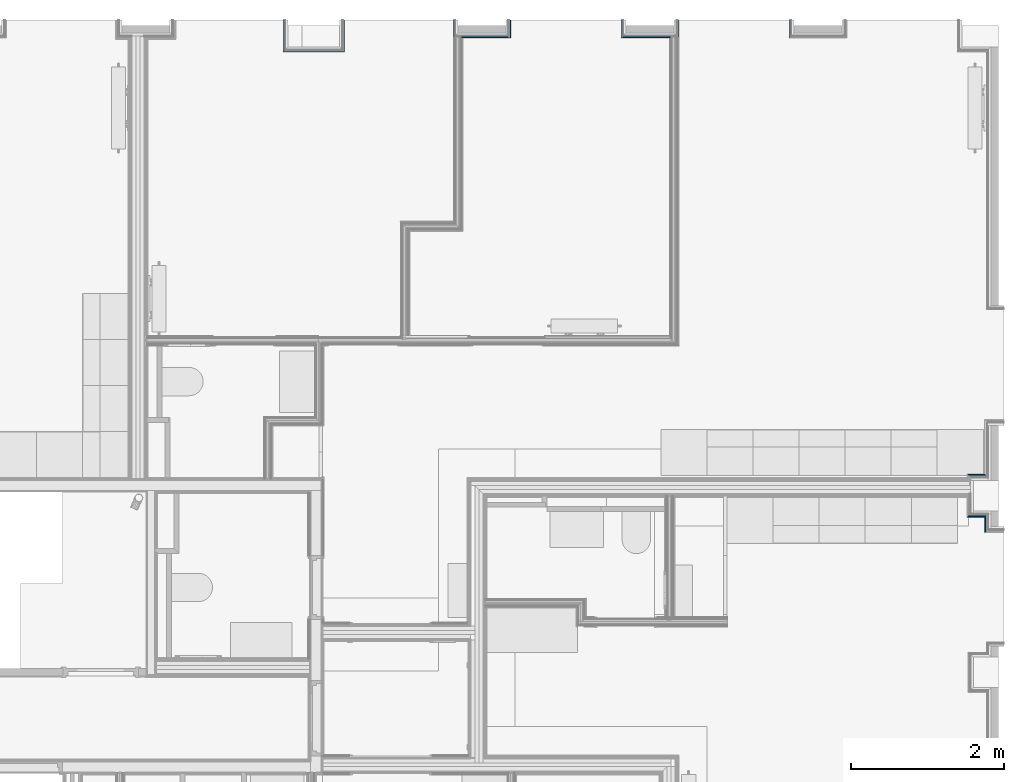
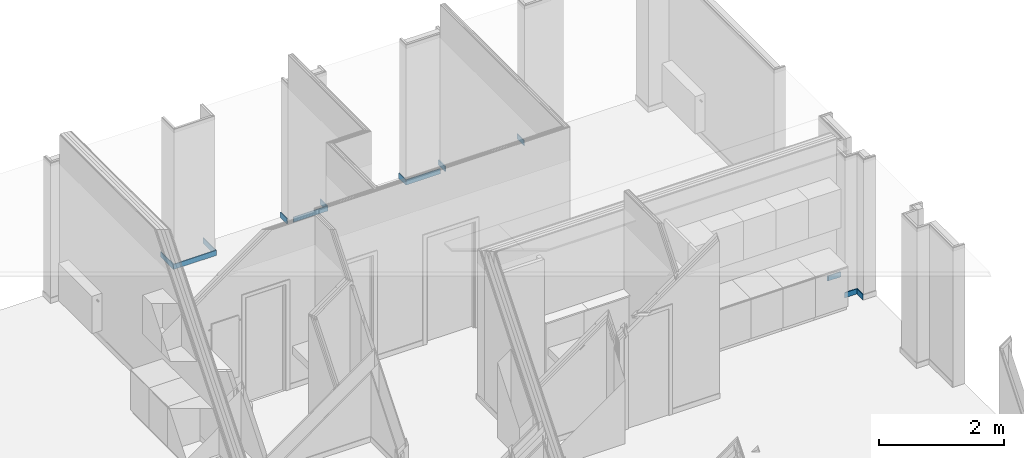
# One storey, part 39 of 64: 13 building element parts, 13 elements without a shape of their own.
"""IFC2X3 building model written with IfcOpenShell, lengths in metres."""

from ifc_helpers import new_model, entity, si_unit, converted_unit, derived_unit, money_unit, direction, frame, frame_2d, origin_with_axes, place, context, subcontext, project, spatial, polyline, rectangle, outline, extrude, material, type_object, element, aggregate, save


model = new_model("IFC2X3")

# Units and contexts
model_context = context("Model", 3, precision=1e-05, world=origin_with_axes(), true_north=direction((0.0, 1.0)))
body_context = subcontext(model_context, "Body", "Model", "MODEL_VIEW", scale=1.0)
ifc_project = project(units=[si_unit("LENGTHUNIT", "METRE"), si_unit("AREAUNIT", "SQUARE_METRE"), si_unit("VOLUMEUNIT", "CUBIC_METRE"), si_unit("ABSORBEDDOSEUNIT", "GRAY"), si_unit("AMOUNTOFSUBSTANCEUNIT", "MOLE"), si_unit("DOSEEQUIVALENTUNIT", "SIEVERT"), si_unit("ELECTRICCAPACITANCEUNIT", "FARAD"), si_unit("ELECTRICCHARGEUNIT", "COULOMB"), si_unit("ELECTRICCONDUCTANCEUNIT", "SIEMENS"), si_unit("ELECTRICCURRENTUNIT", "AMPERE"), si_unit("ELECTRICRESISTANCEUNIT", "OHM"), si_unit("ELECTRICVOLTAGEUNIT", "VOLT"), si_unit("ENERGYUNIT", "JOULE"), si_unit("FORCEUNIT", "NEWTON"), si_unit("FREQUENCYUNIT", "HERTZ"), si_unit("ILLUMINANCEUNIT", "LUX"), si_unit("INDUCTANCEUNIT", "HENRY"), si_unit("LUMINOUSFLUXUNIT", "LUMEN"), si_unit("LUMINOUSINTENSITYUNIT", "CANDELA"), si_unit("MAGNETICFLUXDENSITYUNIT", "TESLA"), si_unit("MAGNETICFLUXUNIT", "WEBER"), si_unit("MASSUNIT", "GRAM"), converted_unit("PLANEANGLEUNIT", "degree", entity("IfcReal", 0.0174532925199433), si_unit("PLANEANGLEUNIT", "RADIAN"), dimensions=[0, 0, 0, 0, 0, 0, 0]), si_unit("POWERUNIT", "WATT"), si_unit("PRESSUREUNIT", "PASCAL"), si_unit("RADIOACTIVITYUNIT", "BECQUEREL"), si_unit("SOLIDANGLEUNIT", "STERADIAN"), si_unit("THERMODYNAMICTEMPERATUREUNIT", "KELVIN"), si_unit("TIMEUNIT", "SECOND"), derived_unit("ACCELERATIONUNIT", [(si_unit("LENGTHUNIT", "METRE"), 1), (si_unit("TIMEUNIT", "SECOND"), -2)]), derived_unit("ANGULARVELOCITYUNIT", [(converted_unit("PLANEANGLEUNIT", "degree", entity("IfcReal", 0.0174532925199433), si_unit("PLANEANGLEUNIT", "RADIAN"), dimensions=[0, 0, 0, 0, 0, 0, 0]), 1), (si_unit("TIMEUNIT", "SECOND"), -1)]), derived_unit("CURVATUREUNIT", [(converted_unit("PLANEANGLEUNIT", "degree", entity("IfcReal", 0.0174532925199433), si_unit("PLANEANGLEUNIT", "RADIAN"), dimensions=[0, 0, 0, 0, 0, 0, 0]), 1), (si_unit("LENGTHUNIT", "METRE"), -1)]), derived_unit("DYNAMICVISCOSITYUNIT", [(si_unit("PRESSUREUNIT", "PASCAL"), 1), (si_unit("TIMEUNIT", "SECOND"), 1)]), derived_unit("HEATFLUXDENSITYUNIT", [(si_unit("POWERUNIT", "WATT"), 1), (si_unit("LENGTHUNIT", "METRE"), -2)]), derived_unit("HEATINGVALUEUNIT", [(si_unit("ENERGYUNIT", "JOULE"), 1), (si_unit("MASSUNIT", "GRAM"), -1)]), derived_unit("INTEGERCOUNTRATEUNIT", [(si_unit("TIMEUNIT", "SECOND"), -1)]), derived_unit("IONCONCENTRATIONUNIT", [(si_unit("MASSUNIT", "GRAM"), 1), (si_unit("VOLUMEUNIT", "CUBIC_METRE"), -1)]), derived_unit("ISOTHERMALMOISTURECAPACITYUNIT", [(si_unit("VOLUMEUNIT", "CUBIC_METRE"), 1), (si_unit("MASSUNIT", "GRAM"), -1)]), derived_unit("KINEMATICVISCOSITYUNIT", [(si_unit("AREAUNIT", "SQUARE_METRE"), 1), (si_unit("TIMEUNIT", "SECOND"), -1)]), derived_unit("LINEARFORCEUNIT", [(si_unit("FORCEUNIT", "NEWTON"), 1), (si_unit("LENGTHUNIT", "METRE"), -1)]), derived_unit("LINEARMOMENTUNIT", [(si_unit("FORCEUNIT", "NEWTON"), 1), (si_unit("LENGTHUNIT", "METRE"), -1)]), derived_unit("LINEARSTIFFNESSUNIT", [(si_unit("FORCEUNIT", "NEWTON"), 1), (si_unit("LENGTHUNIT", "METRE"), -1)]), derived_unit("LINEARVELOCITYUNIT", [(si_unit("LENGTHUNIT", "METRE"), 1), (si_unit("TIMEUNIT", "SECOND"), -1)]), derived_unit("LUMINOUSINTENSITYDISTRIBUTIONUNIT", [(si_unit("LUMINOUSINTENSITYUNIT", "CANDELA"), 1), (si_unit("LUMINOUSFLUXUNIT", "LUMEN"), -1)]), derived_unit("MASSDENSITYUNIT", [(si_unit("MASSUNIT", "GRAM"), 1), (si_unit("VOLUMEUNIT", "CUBIC_METRE"), -1)]), derived_unit("MASSFLOWRATEUNIT", [(si_unit("MASSUNIT", "GRAM"), 1), (si_unit("TIMEUNIT", "SECOND"), -1)]), derived_unit("MASSPERLENGTHUNIT", [(si_unit("MASSUNIT", "GRAM"), 1), (si_unit("LENGTHUNIT", "METRE"), -1)]), derived_unit("MODULUSOFELASTICITYUNIT", [(si_unit("FORCEUNIT", "NEWTON"), 1), (si_unit("AREAUNIT", "SQUARE_METRE"), -1)]), derived_unit("MODULUSOFLINEARSUBGRADEREACTIONUNIT", [(si_unit("FORCEUNIT", "NEWTON"), 1), (si_unit("LENGTHUNIT", "METRE"), -2)]), derived_unit("MODULUSOFROTATIONALSUBGRADEREACTIONUNIT", [(si_unit("FORCEUNIT", "NEWTON"), 1), (si_unit("LENGTHUNIT", "METRE"), 1)]), derived_unit("MODULUSOFSUBGRADEREACTIONUNIT", [(si_unit("FORCEUNIT", "NEWTON"), 1), (si_unit("VOLUMEUNIT", "CUBIC_METRE"), -1)]), derived_unit("MOISTUREDIFFUSIVITYUNIT", [(si_unit("VOLUMEUNIT", "CUBIC_METRE"), 1), (si_unit("TIMEUNIT", "SECOND"), -1)]), derived_unit("MOLECULARWEIGHTUNIT", [(si_unit("MASSUNIT", "GRAM"), 1), (si_unit("AMOUNTOFSUBSTANCEUNIT", "MOLE"), -1)]), derived_unit("PLANARFORCEUNIT", [(si_unit("FORCEUNIT", "NEWTON"), 1), (si_unit("LENGTHUNIT", "METRE"), -2)]), derived_unit("ROTATIONALFREQUENCYUNIT", [(si_unit("TIMEUNIT", "SECOND"), -1)]), derived_unit("ROTATIONALMASSUNIT", [(si_unit("MASSUNIT", "GRAM"), 1), (si_unit("LENGTHUNIT", "METRE"), 2)]), derived_unit("ROTATIONALSTIFFNESSUNIT", [(si_unit("FORCEUNIT", "NEWTON"), 1), (si_unit("LENGTHUNIT", "METRE"), 1), (converted_unit("PLANEANGLEUNIT", "degree", entity("IfcReal", 0.0174532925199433), si_unit("PLANEANGLEUNIT", "RADIAN"), dimensions=[0, 0, 0, 0, 0, 0, 0]), -1)]), derived_unit("SECTIONAREAINTEGRALUNIT", [(si_unit("LENGTHUNIT", "METRE"), 5)]), derived_unit("SECTIONMODULUSUNIT", [(si_unit("LENGTHUNIT", "METRE"), 3)]), derived_unit("SHEARMODULUSUNIT", [(si_unit("FORCEUNIT", "NEWTON"), 1), (si_unit("AREAUNIT", "SQUARE_METRE"), -1)]), derived_unit("SOUNDPOWERUNIT", [(si_unit("ENERGYUNIT", "JOULE"), 1), (si_unit("TIMEUNIT", "SECOND"), -1)]), derived_unit("SPECIFICHEATCAPACITYUNIT", [(si_unit("FORCEUNIT", "NEWTON"), 1), (si_unit("MASSUNIT", "GRAM"), -1), (si_unit("THERMODYNAMICTEMPERATUREUNIT", "KELVIN"), -1)]), derived_unit("TEMPERATUREGRADIENTUNIT", [(si_unit("THERMODYNAMICTEMPERATUREUNIT", "KELVIN"), 1), (si_unit("LENGTHUNIT", "METRE"), -1)]), derived_unit("THERMALADMITTANCEUNIT", [(si_unit("POWERUNIT", "WATT"), 1), (si_unit("AREAUNIT", "SQUARE_METRE"), -1), (si_unit("THERMODYNAMICTEMPERATUREUNIT", "KELVIN"), -1)]), derived_unit("THERMALCONDUCTANCEUNIT", [(si_unit("POWERUNIT", "WATT"), 1), (si_unit("LENGTHUNIT", "METRE"), -1), (si_unit("THERMODYNAMICTEMPERATUREUNIT", "KELVIN"), -1)]), derived_unit("THERMALEXPANSIONCOEFFICIENTUNIT", [(si_unit("THERMODYNAMICTEMPERATUREUNIT", "KELVIN"), -1)]), derived_unit("THERMALRESISTANCEUNIT", [(si_unit("AREAUNIT", "SQUARE_METRE"), 1), (si_unit("POWERUNIT", "WATT"), -1)]), derived_unit("THERMALTRANSMITTANCEUNIT", [(si_unit("POWERUNIT", "WATT"), 1), (si_unit("AREAUNIT", "SQUARE_METRE"), -1), (si_unit("THERMODYNAMICTEMPERATUREUNIT", "KELVIN"), -1)]), derived_unit("TORQUEUNIT", [(si_unit("FORCEUNIT", "NEWTON"), 1), (si_unit("LENGTHUNIT", "METRE"), 1)]), derived_unit("VAPORPERMEABILITYUNIT", [(si_unit("MASSUNIT", "GRAM"), 1), (si_unit("TIMEUNIT", "SECOND"), -1)]), derived_unit("VOLUMETRICFLOWRATEUNIT", [(si_unit("VOLUMEUNIT", "CUBIC_METRE"), 1), (si_unit("TIMEUNIT", "SECOND"), -1)]), derived_unit("WARPINGCONSTANTUNIT", [(si_unit("LENGTHUNIT", "METRE"), 6)]), derived_unit("WARPINGMOMENTUNIT", [(si_unit("FORCEUNIT", "NEWTON"), 1), (si_unit("LENGTHUNIT", "METRE"), 2)]), money_unit("GBP")], contexts=[model_context])

# Site, building, storey
site_placement = place(None, origin_with_axes())
site = spatial("IfcSite", under=ifc_project, at=site_placement, Name="Site", CompositionType="ELEMENT")
building_placement = place(site_placement, origin_with_axes())
building = spatial("IfcBuilding", under=site, at=building_placement, Name="Building01", CompositionType="ELEMENT")
storey_placement = place(building_placement, frame((0.0, 0.0, 8.64), z_axis=(0.0, 0.0, 1.0), x_axis=(1.0, 0.0, 0.0)))
storey = spatial("IfcBuildingStorey", under=building, at=storey_placement, Name="2F", CompositionType="ELEMENT", Elevation=8.64)

# Wall, building element part
wall_type_1 = type_object("IfcWallType", Name="SHE_A-Walls_Type06d_ExternalWallInsulation_48mm", PredefinedType="NOTDEFINED")
wall_1_placement = place(storey_placement, frame((18.22, 14.8, 0.0), z_axis=(0.0, 0.0, 1.0), x_axis=(0.0, -1.0, 0.0)))
wall_1 = element("IfcWall", 1, at=wall_1_placement, inside=storey, type_object=wall_type_1, Name="6D", ObjectType="SHE_A-Walls_Type06d_ExternalWallInsulation_48mm")
ifc_material = material(Name="A_BSUK_Walls_Timber")
building_element_part_1_placement = place(wall_1_placement, origin_with_axes())
building_element_part_1 = element("IfcBuildingElementPart", 2, at=building_element_part_1_placement, material=ifc_material, Name="3", context=body_context, shape_type="SweptSolid", body=[
    extrude(outline(polyline([(0.413, 0.063), (0.0, 0.063), (0.0, 0.048), (0.398, 0.048), (0.413, 0.063)])), frame((0.0, 0.0, 0.015), z_axis=(0.0, 0.0, 1.0), x_axis=(1.0, 0.0, 0.0)), (0.0, 0.0, 1.0), 0.1),
])
aggregate(wall_1, [building_element_part_1])

wall_2_placement = place(storey_placement, frame((18.22, 14.45, 0.0), z_axis=(0.0, 0.0, 1.0), x_axis=(-1.0, 0.0, 0.0)))
wall_2 = element("IfcWall", 3, at=wall_2_placement, inside=storey, type_object=wall_type_1, Name="6D", ObjectType="SHE_A-Walls_Type06d_ExternalWallInsulation_48mm")
building_element_part_2_placement = place(wall_2_placement, origin_with_axes())
building_element_part_2 = element("IfcBuildingElementPart", 4, at=building_element_part_2_placement, material=ifc_material, Name="3", context=body_context, shape_type="SweptSolid", body=[
    extrude(outline(polyline([(0.733, 0.063), (-0.063, 0.063), (-0.048, 0.048), (0.718, 0.048), (0.733, 0.063)])), frame((0.0, 0.0, 0.015), z_axis=(0.0, 0.0, 1.0), x_axis=(1.0, 0.0, 0.0)), (0.0, 0.0, 1.0), 0.1),
])
aggregate(wall_2, [building_element_part_2])

wall_3_placement = place(storey_placement, frame((17.55, 14.45, 0.0), z_axis=(0.0, 0.0, 1.0), x_axis=(0.0, 1.0, 0.0)))
wall_3 = element("IfcWall", 5, at=wall_3_placement, inside=storey, type_object=wall_type_1, Name="6D", ObjectType="SHE_A-Walls_Type06d_ExternalWallInsulation_48mm")
building_element_part_3_placement = place(wall_3_placement, origin_with_axes())
building_element_part_3 = element("IfcBuildingElementPart", 6, at=building_element_part_3_placement, material=ifc_material, Name="3", context=body_context, shape_type="SweptSolid", body=[
    extrude(outline(polyline([(-0.063, 0.063), (-0.048, 0.048), (0.35, 0.048), (0.35, 0.063), (-0.063, 0.063)])), frame((0.0, 0.0, 0.015), z_axis=(0.0, 0.0, 1.0), x_axis=(1.0, 0.0, 0.0)), (0.0, 0.0, 1.0), 0.1),
])
aggregate(wall_3, [building_element_part_3])

wall_4_placement = place(storey_placement, frame((20.387, 14.8, 0.0), z_axis=(0.0, 0.0, 1.0), x_axis=(0.0, -1.0, 0.0)))
wall_4 = element("IfcWall", 7, at=wall_4_placement, inside=storey, type_object=wall_type_1, Name="6D", ObjectType="SHE_A-Walls_Type06d_ExternalWallInsulation_48mm")
building_element_part_4_placement = place(wall_4_placement, origin_with_axes())
building_element_part_4 = element("IfcBuildingElementPart", 8, at=building_element_part_4_placement, material=ifc_material, Name="3", context=body_context, shape_type="SweptSolid", body=[
    extrude(outline(polyline([(0.233, 0.063), (0.0, 0.063), (0.0, 0.048), (0.218, 0.048), (0.233, 0.063)])), frame((0.0, 0.0, 0.015), z_axis=(0.0, 0.0, 1.0), x_axis=(1.0, 0.0, 0.0)), (0.0, 0.0, 1.0), 0.1),
])
aggregate(wall_4, [building_element_part_4])

wall_5_placement = place(storey_placement, frame((20.387, 14.63, 0.0), z_axis=(0.0, 0.0, 1.0), x_axis=(-1.0, 0.0, 0.0)))
wall_5 = element("IfcWall", 9, at=wall_5_placement, inside=storey, type_object=wall_type_1, Name="6D", ObjectType="SHE_A-Walls_Type06d_ExternalWallInsulation_48mm")
building_element_part_5_placement = place(wall_5_placement, origin_with_axes())
building_element_part_5 = element("IfcBuildingElementPart", 10, at=building_element_part_5_placement, material=ifc_material, Name="3", context=body_context, shape_type="SweptSolid", body=[
    extrude(outline(polyline([(0.577, 0.063), (-0.063, 0.063), (-0.048, 0.048), (0.577, 0.048), (0.577, 0.063)])), frame((0.0, 0.0, 0.015), z_axis=(0.0, 0.0, 1.0), x_axis=(1.0, 0.0, 0.0)), (0.0, 0.0, 1.0), 0.1),
])
aggregate(wall_5, [building_element_part_5])

wall_6_placement = place(storey_placement, frame((19.763, 14.63, 0.0), z_axis=(0.0, 0.0, 1.0), x_axis=(0.0, 1.0, 0.0)))
wall_6 = element("IfcWall", 11, at=wall_6_placement, inside=storey, type_object=wall_type_1, Name="6D", ObjectType="SHE_A-Walls_Type06d_ExternalWallInsulation_48mm")
building_element_part_6_placement = place(wall_6_placement, origin_with_axes())
building_element_part_6 = element("IfcBuildingElementPart", 12, at=building_element_part_6_placement, material=ifc_material, Name="3", context=body_context, shape_type="SweptSolid", body=[
    extrude(rectangle(XDim=0.218, YDim=0.015, at=frame_2d((0.061, 0.0555), x_axis=(1.0, 0.0))), frame((0.0, 0.0, 0.015), z_axis=(0.0, 0.0, 1.0), x_axis=(1.0, 0.0, 0.0)), (0.0, 0.0, 1.0), 0.1),
])
aggregate(wall_6, [building_element_part_6])

wall_7_placement = place(storey_placement, frame((22.577, 14.8, 0.0), z_axis=(0.0, 0.0, 1.0), x_axis=(0.0, -1.0, 0.0)))
wall_7 = element("IfcWall", 13, at=wall_7_placement, inside=storey, type_object=wall_type_1, Name="6D", ObjectType="SHE_A-Walls_Type06d_ExternalWallInsulation_48mm")
building_element_part_7_placement = place(wall_7_placement, origin_with_axes())
building_element_part_7 = element("IfcBuildingElementPart", 14, at=building_element_part_7_placement, material=ifc_material, Name="3", context=body_context, shape_type="SweptSolid", body=[
    extrude(rectangle(XDim=0.218, YDim=0.015, at=frame_2d((0.109, 0.0555), x_axis=(1.0, 0.0))), frame((0.0, 0.0, 0.015), z_axis=(0.0, 0.0, 1.0), x_axis=(1.0, 0.0, 0.0)), (0.0, 0.0, 1.0), 0.1),
])
aggregate(wall_7, [building_element_part_7])

wall_8_placement = place(storey_placement, frame((22.577, 14.63, 0.0), z_axis=(0.0, 0.0, 1.0), x_axis=(-1.0, 0.0, 0.0)))
wall_8 = element("IfcWall", 15, at=wall_8_placement, inside=storey, type_object=wall_type_1, Name="6D", ObjectType="SHE_A-Walls_Type06d_ExternalWallInsulation_48mm")
building_element_part_8_placement = place(wall_8_placement, origin_with_axes())
building_element_part_8 = element("IfcBuildingElementPart", 16, at=building_element_part_8_placement, material=ifc_material, Name="3", context=body_context, shape_type="SweptSolid", body=[
    extrude(outline(polyline([(0.687, 0.063), (0.047, 0.063), (0.047, 0.048), (0.672, 0.048), (0.687, 0.063)])), frame((0.0, 0.0, 0.015), z_axis=(0.0, 0.0, 1.0), x_axis=(1.0, 0.0, 0.0)), (0.0, 0.0, 1.0), 0.1),
])
aggregate(wall_8, [building_element_part_8])

wall_9_placement = place(storey_placement, frame((21.953, 14.63, 0.0), z_axis=(0.0, 0.0, 1.0), x_axis=(0.0, 1.0, 0.0)))
wall_9 = element("IfcWall", 17, at=wall_9_placement, inside=storey, type_object=wall_type_1, Name="6D", ObjectType="SHE_A-Walls_Type06d_ExternalWallInsulation_48mm")
building_element_part_9_placement = place(wall_9_placement, origin_with_axes())
building_element_part_9 = element("IfcBuildingElementPart", 18, at=building_element_part_9_placement, material=ifc_material, Name="3", context=body_context, shape_type="SweptSolid", body=[
    extrude(outline(polyline([(-0.063, 0.063), (-0.048, 0.048), (0.17, 0.048), (0.17, 0.063), (-0.063, 0.063)])), frame((0.0, 0.0, 0.015), z_axis=(0.0, 0.0, 1.0), x_axis=(1.0, 0.0, 0.0)), (0.0, 0.0, 1.0), 0.1),
])
aggregate(wall_9, [building_element_part_9])

wall_10_placement = place(storey_placement, frame((24.143, 14.63, 0.0), z_axis=(0.0, 0.0, 1.0), x_axis=(0.0, 1.0, 0.0)))
wall_10 = element("IfcWall", 19, at=wall_10_placement, inside=storey, type_object=wall_type_1, Name="6D", ObjectType="SHE_A-Walls_Type06d_ExternalWallInsulation_48mm")
building_element_part_10_placement = place(wall_10_placement, origin_with_axes())
building_element_part_10 = element("IfcBuildingElementPart", 20, at=building_element_part_10_placement, material=ifc_material, Name="3", context=body_context, shape_type="SweptSolid", body=[
    extrude(outline(polyline([(-0.063, 0.063), (-0.048, 0.048), (0.17, 0.048), (0.17, 0.063), (-0.063, 0.063)])), frame((0.0, 0.0, 0.015), z_axis=(0.0, 0.0, 1.0), x_axis=(1.0, 0.0, 0.0)), (0.0, 0.0, 1.0), 0.1),
])
aggregate(wall_10, [building_element_part_10])

wall_type_2 = type_object("IfcWallType", Name="SHE_A-Walls_Type06f_ExternalWallInsulation_48+15mm", PredefinedType="NOTDEFINED")
wall_11_placement = place(storey_placement, frame((26.48, 8.4, 0.0), z_axis=(0.0, 0.0, 1.0), x_axis=(1.0, 0.0, 0.0)))
wall_11 = element("IfcWall", 21, at=wall_11_placement, inside=storey, type_object=wall_type_2, Name="6F", ObjectType="SHE_A-Walls_Type06f_ExternalWallInsulation_48+15mm")
building_element_part_11_placement = place(wall_11_placement, origin_with_axes())
building_element_part_11 = element("IfcBuildingElementPart", 22, at=building_element_part_11_placement, material=ifc_material, Name="1", context=body_context, shape_type="SweptSolid", body=[
    extrude(outline(polyline([(0.152, -0.063), (-0.063, -0.063), (-0.078, -0.078), (0.152, -0.078), (0.152, -0.063)])), frame((0.0, 0.0, 0.015), z_axis=(0.0, 0.0, 1.0), x_axis=(1.0, 0.0, 0.0)), (0.0, 0.0, 1.0), 0.1),
])
aggregate(wall_11, [building_element_part_11])

wall_12_placement = place(storey_placement, frame((26.674, 8.8, 0.0), z_axis=(0.0, 0.0, 1.0), x_axis=(-1.0, 0.0, 0.0)))
wall_12 = element("IfcWall", 23, at=wall_12_placement, inside=storey, type_object=wall_type_2, Name="6F", ObjectType="SHE_A-Walls_Type06f_ExternalWallInsulation_48+15mm")
building_element_part_12_placement = place(wall_12_placement, origin_with_axes())
building_element_part_12 = element("IfcBuildingElementPart", 24, at=building_element_part_12_placement, material=ifc_material, Name="1", context=body_context, shape_type="SweptSolid", body=[
    extrude(outline(polyline([(0.257, -0.063), (0.027, -0.063), (0.042, -0.078), (0.272, -0.078), (0.257, -0.063)])), frame((0.0, 0.0, 0.015), z_axis=(0.0, 0.0, 1.0), x_axis=(1.0, 0.0, 0.0)), (0.0, 0.0, 1.0), 0.1),
])
aggregate(wall_12, [building_element_part_12])

wall_13_placement = place(storey_placement, frame((26.71, 8.164326, 0.0), z_axis=(0.0, 0.0, 1.0), x_axis=(0.0, 1.0, 0.0)))
wall_13 = element("IfcWall", 25, at=wall_13_placement, inside=storey, type_object=wall_type_2, Name="6F", ObjectType="SHE_A-Walls_Type06f_ExternalWallInsulation_48+15mm")
building_element_part_13_placement = place(wall_13_placement, origin_with_axes())
building_element_part_13 = element("IfcBuildingElementPart", 26, at=building_element_part_13_placement, material=ifc_material, Name="4", context=body_context, shape_type="SweptSolid", body=[
    extrude(outline(polyline([(0.172674, 0.078), (-0.042, 0.078), (-0.027, 0.063), (0.172674, 0.063), (0.172674, 0.078)])), frame((0.0, 0.0, 0.015), z_axis=(0.0, 0.0, 1.0), x_axis=(1.0, 0.0, 0.0)), (0.0, 0.0, 1.0), 0.1),
])
aggregate(wall_13, [building_element_part_13])

save(model, "model.ifc")
